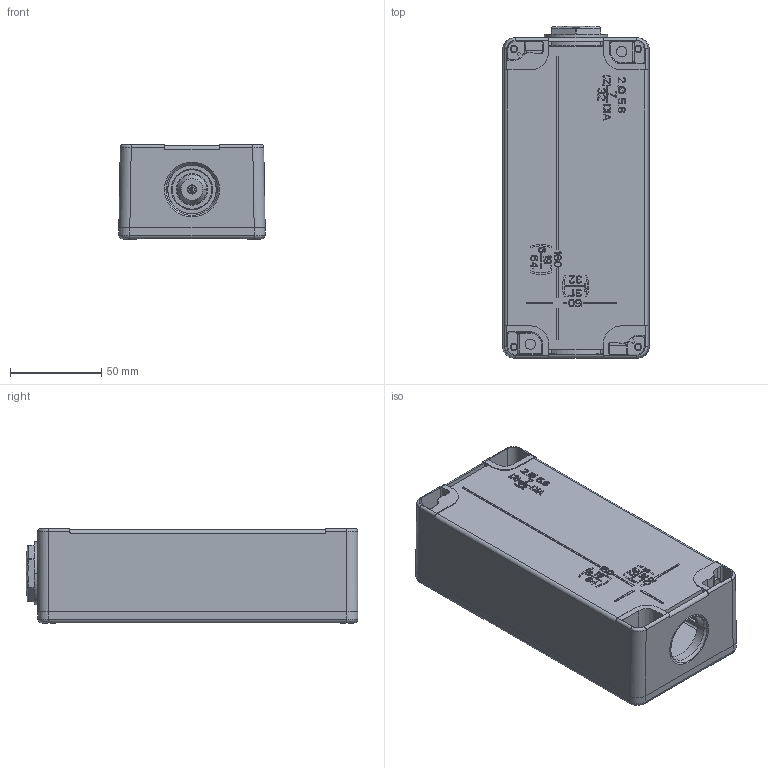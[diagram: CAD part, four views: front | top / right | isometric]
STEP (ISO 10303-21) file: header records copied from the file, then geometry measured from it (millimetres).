
FILE_DESCRIPTION((''),'2;1');
FILE_NAME('XAPM3203_ASM','2017-06-19T',('SESA46431'),('Schneider-Electric'),'PRO/ENGINEER BY PARAMETRIC TECHNOLOGY CORPORATION, 2015440','PRO/ENGINEER BY PARAMETRIC TECHNOLOGY CORPORATION, 2015440','');
FILE_SCHEMA(('CONFIG_CONTROL_DESIGN'));
Products named in the file (12): 042650700AF8; AAV4240401; 033222101AF6; 036422501AF7_ASM; 042902500AF9_ASM; 042650801AF6; 042971500AF9_ASM; W10426519_1; NHA9285001; 030082301AF6_27-5; 041452701AF7_ASM; XAPM3203_ASM
Assembly tree (15 placements, depth 4):
  XAPM3203_ASM
    042902500AF9_ASM
      042650700AF8
      036422501AF7_ASM
        AAV4240401
        033222101AF6
    042971500AF9_ASM
      042650801AF6
      036422501AF7_ASM
        AAV4240401
        033222101AF6
    W10426519_1  x4
    041452701AF7_ASM
      NHA9285001
      030082301AF6_27-5
Bounding box: 80 x 181.5 x 51.79 mm (x, y, z)
Volume: 147230.5 mm3; surface area: 126604 mm2
Topology: 12 solids, 24 shells, 2837 faces, 7670 edges, 4984 vertices
Faces by surface type: plane 1944, cylinder 354, bspline 147, cone 128, torus 122, extrusion 118, sphere 24
Entity records: 85922 total; most frequent: CARTESIAN_POINT 22044, ORIENTED_EDGE 13838, DIRECTION 12015, EDGE_CURVE 6941, VECTOR 5467, LINE 5349, VERTEX_POINT 4523, AXIS2_PLACEMENT_3D 3274
